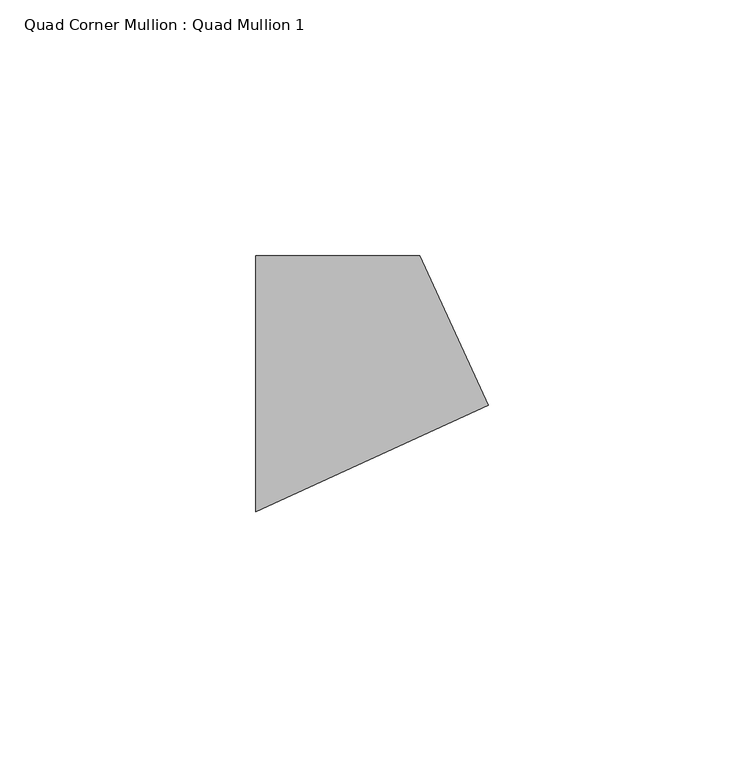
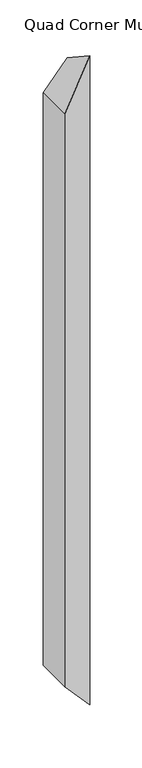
"""IFC4 building model written with IfcOpenShell, lengths in millimetres: member geometry, Quad Corner Mullion : Quad Mullion 1."""

from ifc_helpers import new_model, si_unit, origin, place, context, project, spatial, faceted_brep, source, transform, mapped, element, save


def quad_corner_mullion_quad_mullion_1_08db1336(model_context):
    return source(origin(), model_context, "Body", "Brep", [
        faceted_brep([(16.0523154, 25.0, 19.2725313), (29.4125559, -4.1926582, 35.3129372), (29.4125559, -4.1926582, -884.4308903), (16.0523154, 25.0, -868.4855121), (-16.0523154, 25.0, -19.2725313), (-16.0523154, 25.0, -830.1688007), (-16.0523154, -25.0, -19.2725313), (-16.0523154, -25.0, -830.1688007)], [[[0, 1, 2, 3]], [[4, 0, 3, 5]], [[6, 4, 5, 7]], [[1, 6, 7, 2]], [[1, 0, 4, 6]], [[2, 7, 5, 3]]]),
    ])


if __name__ == "__main__":
    model = new_model("IFC4")
    model_context = context("Model", 3, world=origin())
    ifc_project = project(units=[si_unit("LENGTHUNIT", "METRE", prefix="MILLI")], contexts=[model_context])
    site = spatial("IfcSite", under=ifc_project)
    building = spatial("IfcBuilding", under=site)
    placement = place(None, origin())
    quad_corner_mullion_quad_mullion_1_shape = quad_corner_mullion_quad_mullion_1_08db1336(model_context)
    element("IfcMember", 1, ObjectType="Quad Corner Mullion : Quad Mullion 1", at=placement, inside=building, context=model_context, shape_type="MappedRepresentation", body=[
        mapped(quad_corner_mullion_quad_mullion_1_shape, transform((0.0, 0.0, 0.0), x_axis=(1.0, 0.0, 0.0), y_axis=(0.0, 1.0, 0.0), z_axis=(0.0, 0.0, 1.0))),
    ])
    save(model, "model.ifc")
